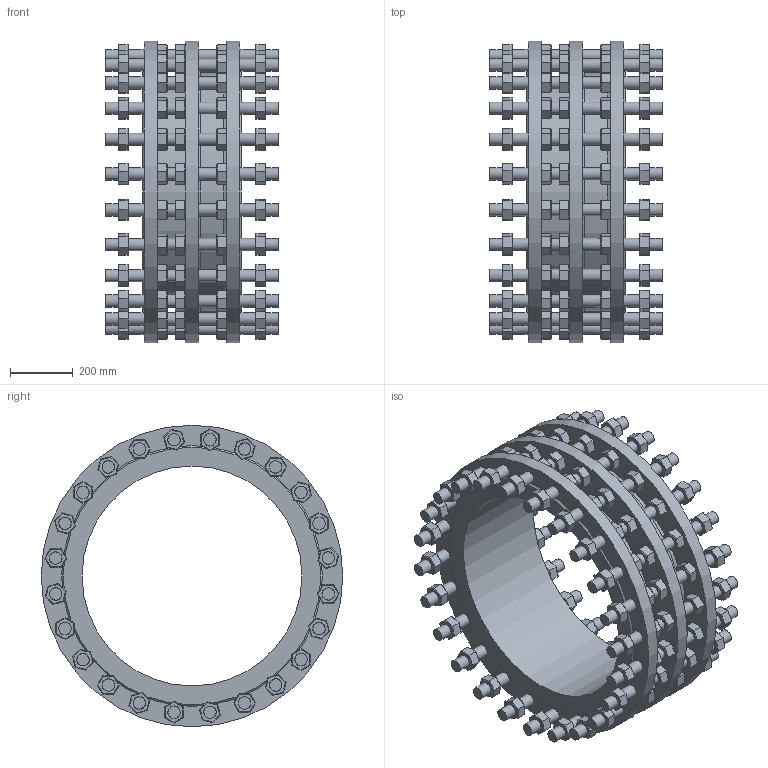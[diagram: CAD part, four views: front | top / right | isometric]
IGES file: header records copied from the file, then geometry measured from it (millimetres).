
Start section: SolidWorks IGES file using analytic representation for surfaces
Global section: file name: X:\AR\CV\873\873-0700-00-741000\873070000741000.IGS; native system: SolidWorks 2020; preprocessor: SolidWorks 2020; author: m.lucatello; date: 211105.110237; units: millimetre
Bounding box: 550 x 960 x 960 mm (x, y, z)
Surface area: 4976469.4 mm2 (no closed solid volume)
Topology: 0 solids, 0 shells, 2851 faces, 11945 edges, 11527 vertices
Faces by surface type: bspline 2433, revolution 418
